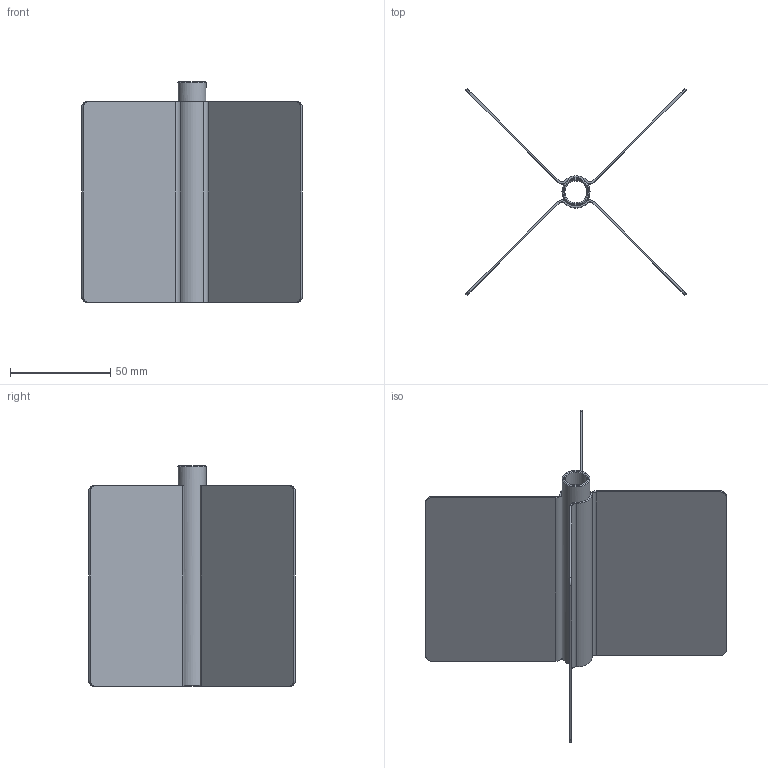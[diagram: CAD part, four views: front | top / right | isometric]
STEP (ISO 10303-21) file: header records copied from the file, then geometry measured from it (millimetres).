
FILE_DESCRIPTION(/* description */ (''),/* implementation_level */ '2;1');
FILE_NAME(/* name */ 'AC11-INOX.stp',/* time_stamp */ '2024-03-22T11:26:20+01:00',/* author */ ('filippo.guidetti'),/* organization */ (''),/* preprocessor_version */ 'ST-DEVELOPER v20',/* originating_system */ 'Autodesk Inventor 2024',/* authorisation */ '');
FILE_SCHEMA (('AUTOMOTIVE_DESIGN { 1 0 10303 214 3 1 1 }'));
Length unit declared in the file: millimetre
Products named in the file (1): AC11-INOX
Bounding box: 110.31 x 103.24 x 110 mm (x, y, z)
Volume: 36326 mm3; surface area: 65123.5 mm2
Topology: 1 solids, 1 shells, 49 faces, 139 edges, 92 vertices
Faces by surface type: cylinder 23, plane 22, cone 4
Full cylindrical faces by diameter (mm): 5.5 x1, 11 x1, 14 x1
Entity records: 1769 total; most frequent: CARTESIAN_POINT 326, DIRECTION 295, ORIENTED_EDGE 278, EDGE_CURVE 139, AXIS2_PLACEMENT_3D 111, VERTEX_POINT 92, LINE 73, VECTOR 73
